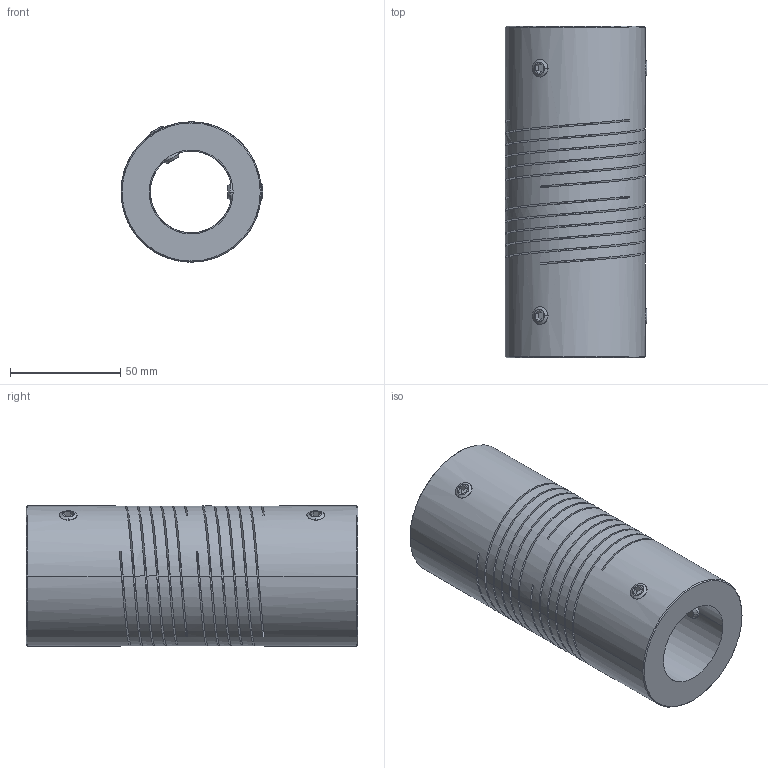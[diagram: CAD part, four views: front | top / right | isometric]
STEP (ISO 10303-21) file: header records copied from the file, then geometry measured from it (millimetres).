
FILE_DESCRIPTION((''),'2;1');
FILE_NAME('702_64_ASM','2006-12-06T',('Gary Melling'),(''),'PRO/ENGINEER BY PARAMETRIC TECHNOLOGY CORPORATION, 2006240','PRO/ENGINEER BY PARAMETRIC TECHNOLOGY CORPORATION, 2006240','');
FILE_SCHEMA(('CONFIG_CONTROL_DESIGN'));
Length unit declared in the file: millimetre
Products named in the file (3): 702_64; GS_8; 702_64_ASM
Assembly tree (5 placements, depth 2):
  702_64_ASM
    702_64
    GS_8  x4
Bounding box: 64.25 x 150 x 63.5 mm (x, y, z)
Volume: 290619.2 mm3; surface area: 99562 mm2
Topology: 5 solids, 5 shells, 142 faces, 394 edges, 252 vertices
Faces by surface type: cylinder 58, plane 52, cone 20, bspline 12
Entity records: 6835 total; most frequent: CARTESIAN_POINT 4306, ORIENTED_EDGE 596, DIRECTION 384, EDGE_CURVE 298, VERTEX_POINT 192, VECTOR 142, LINE 142, B_SPLINE_CURVE_WITH_KNOTS 128
